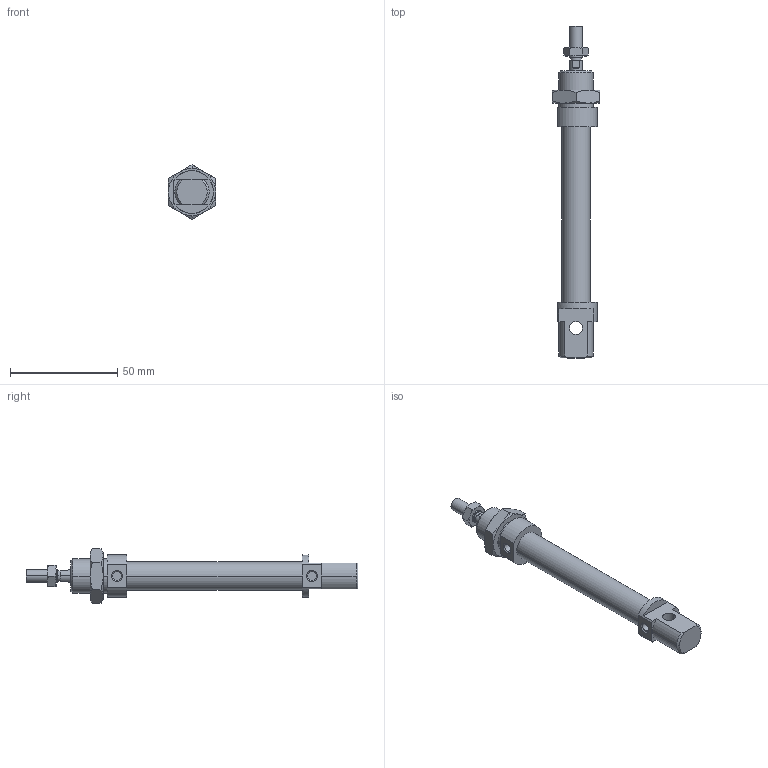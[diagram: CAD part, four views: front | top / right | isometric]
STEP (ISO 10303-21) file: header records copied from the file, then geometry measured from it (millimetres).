
FILE_DESCRIPTION((''),'2;1');
FILE_NAME('I:\DOC-EDP\Lib-3d\1200\CILINDRI\1280\1280_12_0050.stp','2003-04-07T14:48:50',('maffial1'),(''),'Autodesk Inventor (R) 6.0','Autodesk Inventor (R) 6.0','');
FILE_SCHEMA(('AUTOMOTIVE_DESIGN { 1 0 10303 214 1 1 1 1 }'));
Length unit declared in the file: millimetre
Products named in the file (5): 1280_12_0050; S1280_12_50; 1200_12_05; 1200_12_06; C1280_12_50
Assembly tree (4 placements, depth 2):
  1280_12_0050
    S1280_12_50
    1200_12_05
    1200_12_06
    C1280_12_50
Bounding box: 22 x 155 x 25.4 mm (x, y, z)
Volume: 24273.7 mm3; surface area: 12163.7 mm2
Topology: 4 solids, 4 shells, 121 faces, 268 edges, 162 vertices
Faces by surface type: cone 40, plane 39, cylinder 22, bspline 20
Entity records: 3653 total; most frequent: CARTESIAN_POINT 976, DIRECTION 556, ORIENTED_EDGE 536, EDGE_CURVE 268, AXIS2_PLACEMENT_3D 230, VERTEX_POINT 162, EDGE_LOOP 134, FACE_OUTER_BOUND 121
